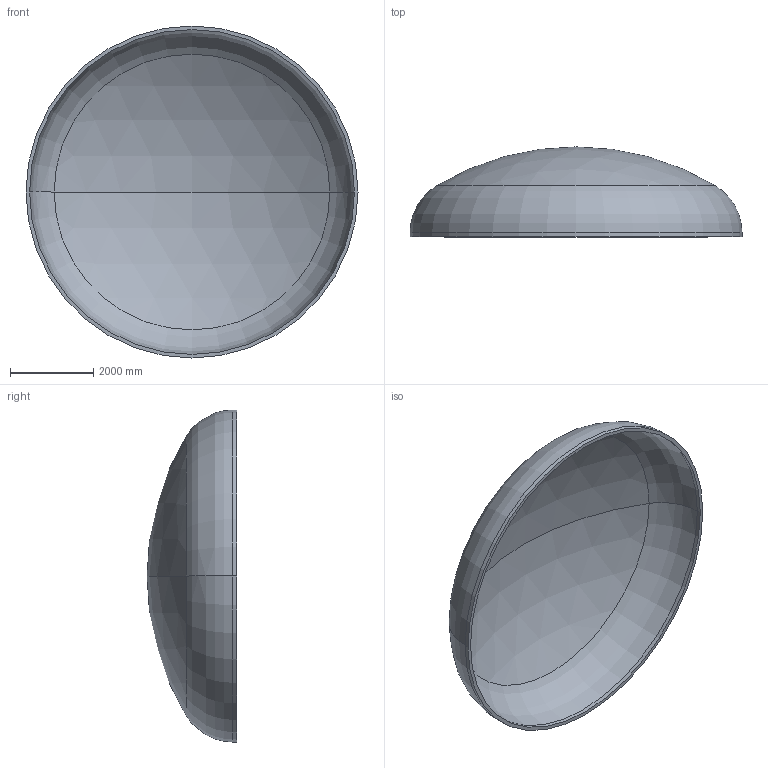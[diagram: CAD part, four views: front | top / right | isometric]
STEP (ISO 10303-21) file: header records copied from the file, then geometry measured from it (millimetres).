
FILE_DESCRIPTION (( 'STEP AP203' ), '1' );
FILE_NAME ('DIN 28013 Korbbogenform_-_Boden DIN 28013 - 8000 x 100 - I - s=86.step', '2016-07-04T11:04:20', ( '' ), ( '' ), 'SwSTEP 2.0', 'SolidWorks 2013', '' );
FILE_SCHEMA (( 'CONFIG_CONTROL_DESIGN' ));
Length unit declared in the file: millimetre
Products named in the file (1): DIN 28013 Korbbogenform_-_Boden DIN 28013 - 8000 x 100 - I - s=86
Bounding box: 8000 x 2167.28 x 8000 mm (x, y, z)
Volume: 6114484884.2 mm3; surface area: 144350938.2 mm2
Topology: 1 solids, 1 shells, 13 faces, 24 edges, 14 vertices
Faces by surface type: torus 4, cylinder 4, sphere 4, plane 1
Entity records: 407 total; most frequent: DIRECTION 72, CARTESIAN_POINT 52, ORIENTED_EDGE 48, AXIS2_PLACEMENT_3D 34, EDGE_CURVE 24, CIRCLE 20, VERTEX_POINT 14, EDGE_LOOP 14
